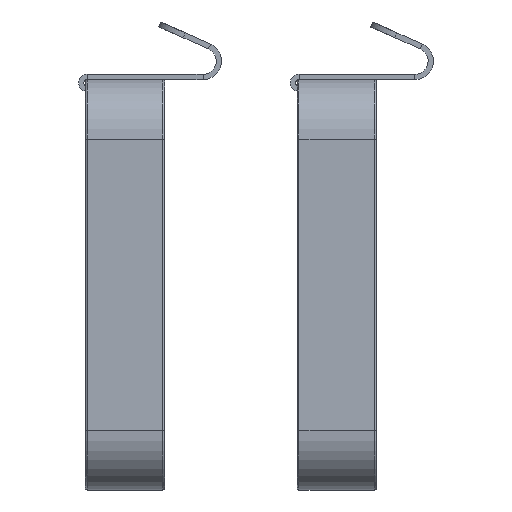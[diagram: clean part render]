
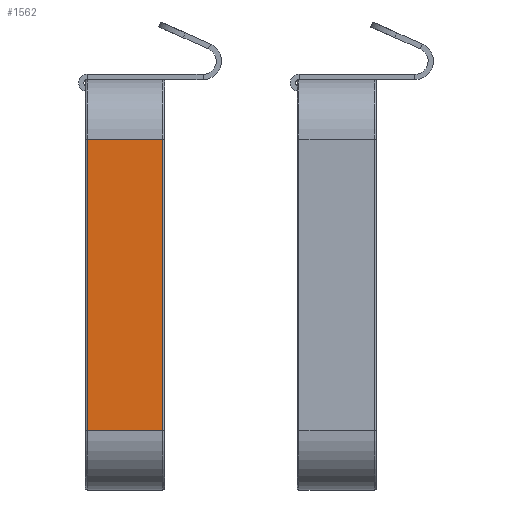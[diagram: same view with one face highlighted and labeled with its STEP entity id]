
A CAD part, left-side view. The second image highlights one B-rep face of the part: STEP entity #1562.
In plain terms, the highlighted planar face has unit normal (-1, 0, 0).
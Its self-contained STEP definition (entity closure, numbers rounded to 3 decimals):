
#1061 = VERTEX_POINT('',#1062);
#1062 = CARTESIAN_POINT('',(-262.5,-14.3,20.));
#1085 = EDGE_CURVE('',#1061,#1086,#1088,.T.);
#1086 = VERTEX_POINT('',#1087);
#1087 = CARTESIAN_POINT('',(-262.5,14.3,20.));
#1088 = LINE('',#1089,#1090);
#1089 = CARTESIAN_POINT('',(-262.5,-14.3,20.));
#1090 = VECTOR('',#1091,1.);
#1091 = DIRECTION('',(0.,1.,0.));
#1145 = EDGE_CURVE('',#1086,#1146,#1148,.T.);
#1146 = VERTEX_POINT('',#1147);
#1147 = CARTESIAN_POINT('',(-262.5,14.3,130.));
#1148 = LINE('',#1149,#1150);
#1149 = CARTESIAN_POINT('',(-262.5,14.3,20.));
#1150 = VECTOR('',#1151,1.);
#1151 = DIRECTION('',(0.,0.,1.));
#1542 = VERTEX_POINT('',#1543);
#1543 = CARTESIAN_POINT('',(-262.5,-14.3,130.));
#1550 = EDGE_CURVE('',#1542,#1061,#1551,.T.);
#1551 = LINE('',#1552,#1553);
#1552 = CARTESIAN_POINT('',(-262.5,-14.3,130.));
#1553 = VECTOR('',#1554,1.);
#1554 = DIRECTION('',(0.,0.,-1.));
#1562 = ADVANCED_FACE('',(#1563),#1574,.F.);
#1563 = FACE_BOUND('',#1564,.F.);
#1564 = EDGE_LOOP('',(#1565,#1566,#1567,#1568));
#1565 = ORIENTED_EDGE('',*,*,#1550,.T.);
#1566 = ORIENTED_EDGE('',*,*,#1085,.T.);
#1567 = ORIENTED_EDGE('',*,*,#1145,.T.);
#1568 = ORIENTED_EDGE('',*,*,#1569,.F.);
#1569 = EDGE_CURVE('',#1542,#1146,#1570,.T.);
#1570 = LINE('',#1571,#1572);
#1571 = CARTESIAN_POINT('',(-262.5,-14.3,130.));
#1572 = VECTOR('',#1573,1.);
#1573 = DIRECTION('',(0.,1.,0.));
#1574 = PLANE('',#1575);
#1575 = AXIS2_PLACEMENT_3D('',#1576,#1577,#1578);
#1576 = CARTESIAN_POINT('',(-262.5,-15.,150.));
#1577 = DIRECTION('',(1.,0.,0.));
#1578 = DIRECTION('',(0.,0.,-1.));
